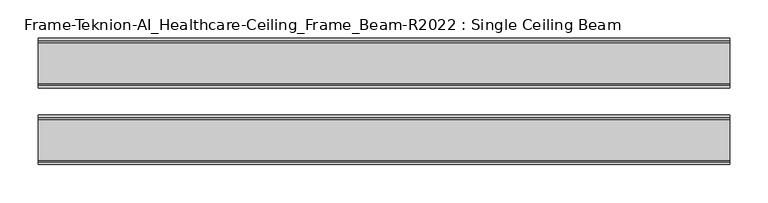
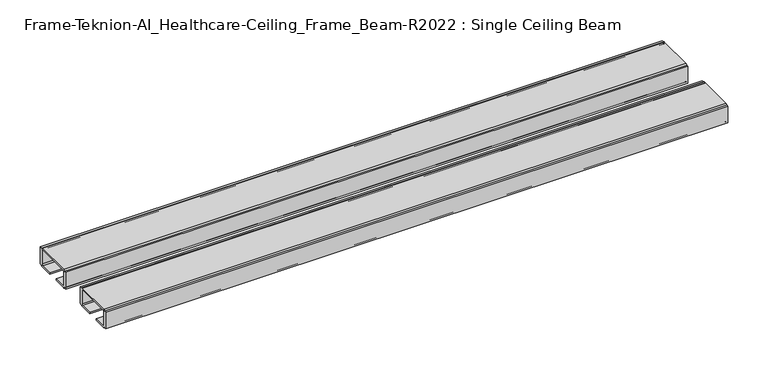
"""IFC4 building model written with IfcOpenShell, lengths in millimetres: furniture geometry, Frame-Teknion-AI_Healthcare-Ceiling_Frame_Beam-R2022 : Single Ceiling Beam."""

from ifc_helpers import new_model, si_unit, point, frame, frame_2d, origin, place, context, project, spatial, polyline, circle_curve, trimmed, segment, composite_curve, outline, extrude, source, transform, mapped, element, save


def frame_teknion_ai_healthcare_ceiling_frame_beam_r2022_single_74fca950(model_context):
    return source(origin(), model_context, "Body", "SweptSolid", [
        extrude(outline(composite_curve([segment(polyline([(-82.1812471, 1573.5046), (-82.1812471, 1598.9045998), (-79.0062502, 1598.9045998), (-79.0062502, 1597.787)]), True, "CONTINUOUS"), segment(trimmed(circle_curve(frame_2d((-76.5932502, 1597.787)), 2.413), [point((-79.0062502, 1597.787))], [point((-76.5932502, 1600.2))], False, "CARTESIAN"), True, "CONTINUOUS"), segment(polyline([(-76.5932502, 1600.2), (-23.4192521, 1600.2)]), True, "CONTINUOUS"), segment(trimmed(circle_curve(frame_2d((-23.4192521, 1597.787)), 2.413), [point((-23.4192521, 1600.2))], [point((-21.0062521, 1597.787))], False, "CARTESIAN"), True, "CONTINUOUS"), segment(polyline([(-21.0062521, 1597.787), (-21.0062521, 1598.9045998), (-17.8312551, 1598.9045998), (-17.8312551, 1573.5046), (-21.0062521, 1573.5046), (-21.0062521, 1574.6129989)]), True, "CONTINUOUS"), segment(trimmed(circle_curve(frame_2d((-23.4192521, 1574.6129989)), 2.413), [point((-21.0062521, 1574.6129989))], [point((-23.4192521, 1572.199999))], False, "CARTESIAN"), True, "CONTINUOUS"), segment(polyline([(-23.4192521, 1572.199999), (-42.0687564, 1572.199999), (-42.0687564, 1574.4859991), (-24.562251, 1574.4859991)]), True, "CONTINUOUS"), segment(trimmed(circle_curve(frame_2d((-24.562251, 1576.0099999)), 1.5240008), [point((-24.562251, 1574.4859991))], [point((-23.0382502, 1576.0099999))], True, "CARTESIAN"), True, "CONTINUOUS"), segment(polyline([(-23.0382502, 1576.0099999), (-23.0382502, 1597.1520009)]), True, "CONTINUOUS"), segment(trimmed(circle_curve(frame_2d((-24.0542492, 1597.1520009)), 1.015999), [point((-23.0382502, 1597.1520009))], [point((-24.0542492, 1598.168))], True, "CARTESIAN"), True, "CONTINUOUS"), segment(polyline([(-24.0542492, 1598.168), (-75.9582531, 1598.168)]), True, "CONTINUOUS"), segment(trimmed(circle_curve(frame_2d((-75.9582531, 1597.1520009)), 1.015999), [point((-75.9582531, 1598.168))], [point((-76.9742521, 1597.1520009))], True, "CARTESIAN"), True, "CONTINUOUS"), segment(polyline([(-76.9742521, 1597.1520009), (-76.9742521, 1576.0099999)]), True, "CONTINUOUS"), segment(trimmed(circle_curve(frame_2d((-75.4502513, 1576.0099999)), 1.5240008), [point((-76.9742521, 1576.0099999))], [point((-75.4502513, 1574.4859991))], True, "CARTESIAN"), True, "CONTINUOUS"), segment(polyline([(-75.4502513, 1574.4859991), (-57.9437458, 1574.4859991), (-57.9437458, 1572.199999), (-76.5932502, 1572.199999)]), True, "CONTINUOUS"), segment(trimmed(circle_curve(frame_2d((-76.5932502, 1574.6129989)), 2.413), [point((-76.5932502, 1572.199999))], [point((-79.0062502, 1574.6129989))], False, "CARTESIAN"), True, "CONTINUOUS"), segment(polyline([(-79.0062502, 1574.6129989), (-79.0062502, 1573.5046), (-82.1812471, 1573.5046)]), True, "CONTINUOUS")], self_intersect=False)), frame((-448.9044872, 0.0, 0.0), z_axis=(1.0, 0.0, 0.0), x_axis=(0.0, 1.0, 0.0)), (0.0, 0.0, 1.0), 897.8089744),
        extrude(outline(composite_curve([segment(polyline([(1573.5046, 82.1812471), (1598.9045998, 82.1812471), (1598.9045998, 79.0062456), (1597.787, 79.0062456)]), True, "CONTINUOUS"), segment(trimmed(circle_curve(frame_2d((1597.787, 76.5932457)), 2.413), [point((1597.787, 79.0062456))], [point((1600.2, 76.5932457))], False, "CARTESIAN"), True, "CONTINUOUS"), segment(polyline([(1600.2, 76.5932457), (1600.2, 23.4192475)]), True, "CONTINUOUS"), segment(trimmed(circle_curve(frame_2d((1597.787, 23.4192475)), 2.413), [point((1600.2, 23.4192475))], [point((1597.787, 21.0062476))], False, "CARTESIAN"), True, "CONTINUOUS"), segment(polyline([(1597.787, 21.0062476), (1598.9045998, 21.0062476), (1598.9045998, 17.8312506), (1573.5046, 17.8312506), (1573.5046, 21.0062476), (1574.6129989, 21.0062476)]), True, "CONTINUOUS"), segment(trimmed(circle_curve(frame_2d((1574.6129989, 23.4192475)), 2.413), [point((1574.6129989, 21.0062476))], [point((1572.199999, 23.4192475))], False, "CARTESIAN"), True, "CONTINUOUS"), segment(polyline([(1572.199999, 23.4192475), (1572.199999, 42.0687519), (1574.4859991, 42.0687519), (1574.4859991, 24.5622464)]), True, "CONTINUOUS"), segment(trimmed(circle_curve(frame_2d((1576.0099999, 24.5622464)), 1.5240008), [point((1574.4859991, 24.5622464))], [point((1576.0099999, 23.0382456))], True, "CARTESIAN"), True, "CONTINUOUS"), segment(polyline([(1576.0099999, 23.0382456), (1597.1520009, 23.0382456)]), True, "CONTINUOUS"), segment(trimmed(circle_curve(frame_2d((1597.1520009, 24.0542446)), 1.015999), [point((1597.1520009, 23.0382456))], [point((1598.168, 24.0542446))], True, "CARTESIAN"), True, "CONTINUOUS"), segment(polyline([(1598.168, 24.0542446), (1598.168, 75.9582485)]), True, "CONTINUOUS"), segment(trimmed(circle_curve(frame_2d((1597.1520009, 75.9582485)), 1.015999), [point((1598.168, 75.9582485))], [point((1597.1520009, 76.9742476))], True, "CARTESIAN"), True, "CONTINUOUS"), segment(polyline([(1597.1520009, 76.9742476), (1576.0099999, 76.9742476)]), True, "CONTINUOUS"), segment(trimmed(circle_curve(frame_2d((1576.0099999, 75.4502468)), 1.5240008), [point((1576.0099999, 76.9742476))], [point((1574.4859991, 75.4502468))], True, "CARTESIAN"), True, "CONTINUOUS"), segment(polyline([(1574.4859991, 75.4502468), (1574.4859991, 57.9437413), (1572.199999, 57.9437413), (1572.199999, 76.5932457)]), True, "CONTINUOUS"), segment(trimmed(circle_curve(frame_2d((1574.6129989, 76.5932457)), 2.413), [point((1572.199999, 76.5932457))], [point((1574.6129989, 79.0062456))], False, "CARTESIAN"), True, "CONTINUOUS"), segment(polyline([(1574.6129989, 79.0062456), (1573.5046, 79.0062456), (1573.5046, 82.1812471)]), True, "CONTINUOUS")], self_intersect=False)), frame((448.9044872, 0.0, 0.0), z_axis=(-1.0, 0.0, 0.0), x_axis=(0.0, 0.0, 1.0)), (0.0, 0.0, 1.0), 897.8089744),
    ])


if __name__ == "__main__":
    model = new_model("IFC4")
    model_context = context("Model", 3, world=origin())
    ifc_project = project(units=[si_unit("LENGTHUNIT", "METRE", prefix="MILLI")], contexts=[model_context])
    site = spatial("IfcSite", under=ifc_project)
    building = spatial("IfcBuilding", under=site)
    placement = place(None, origin())
    frame_teknion_ai_healthcare_ceiling_frame_beam_r2022_single_shape = frame_teknion_ai_healthcare_ceiling_frame_beam_r2022_single_74fca950(model_context)
    element("IfcFurniture", 1, ObjectType="Frame-Teknion-AI_Healthcare-Ceiling_Frame_Beam-R2022 : Single Ceiling Beam", at=placement, inside=building, context=model_context, shape_type="MappedRepresentation", body=[
        mapped(frame_teknion_ai_healthcare_ceiling_frame_beam_r2022_single_shape, transform((0.0, 0.0, 0.0), x_axis=(1.0, 0.0, 0.0), y_axis=(0.0, 1.0, 0.0), z_axis=(0.0, 0.0, 1.0))),
    ])
    save(model, "model.ifc")
